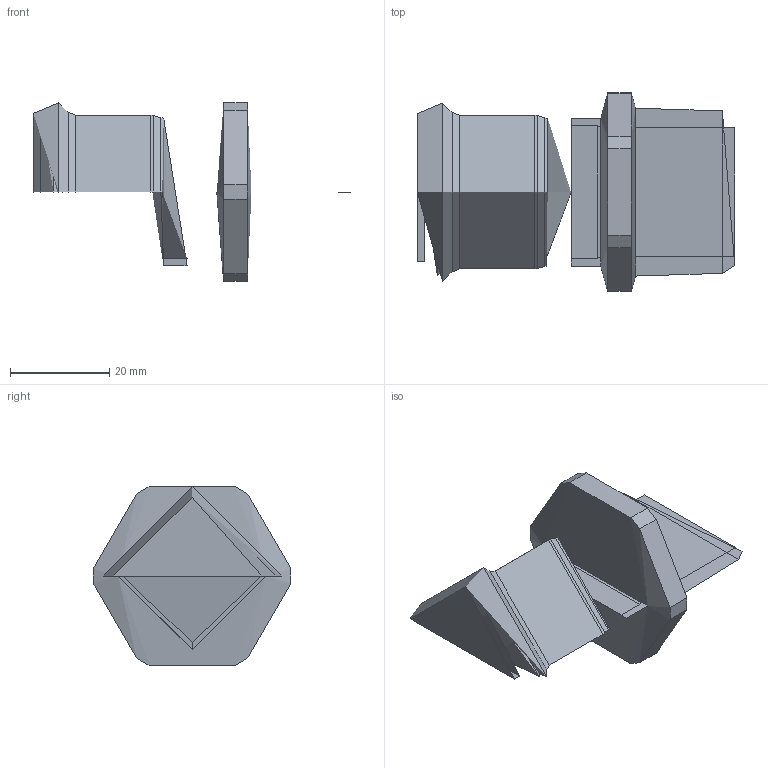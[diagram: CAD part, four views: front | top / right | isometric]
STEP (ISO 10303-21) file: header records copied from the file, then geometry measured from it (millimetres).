
FILE_DESCRIPTION(('FreeCAD Model'),'2;1');
FILE_NAME('Open CASCADE Shape Model','2025-10-20T15:01:33',('Author'),( ''),'Open CASCADE STEP processor 7.8','FreeCAD','Unknown');
FILE_SCHEMA(('AUTOMOTIVE_DESIGN { 1 0 10303 214 1 1 1 1 }'));
Length unit declared in the file: millimetre
Products named in the file (7): Unnamed168; COMPOUND; COMPOUND001; X-Achse; XY-Ebene; COMPOUND002; COMPOUND003
Assembly tree (18 placements, depth 3):
  Unnamed168
    COMPOUND
    COMPOUND001
      COMPOUND
    X-Achse  x6
    XY-Ebene  x6
    COMPOUND002
    COMPOUND003
      COMPOUND002
Bounding box: 64 x 39.93 x 36 mm (x, y, z)
Volume: 32204.2 mm3; surface area: 27828.9 mm2
Topology: 4 solids, 4 shells, 80 faces, 252 edges, 176 vertices
Faces by surface type: bspline 80
Entity records: 1986 total; most frequent: CARTESIAN_POINT 1128, ORIENTED_EDGE 246, EDGE_CURVE 123, VERTEX_POINT 88, FACE_BOUND 45, EDGE_LOOP 45, ADVANCED_FACE 40, DIRECTION 39
